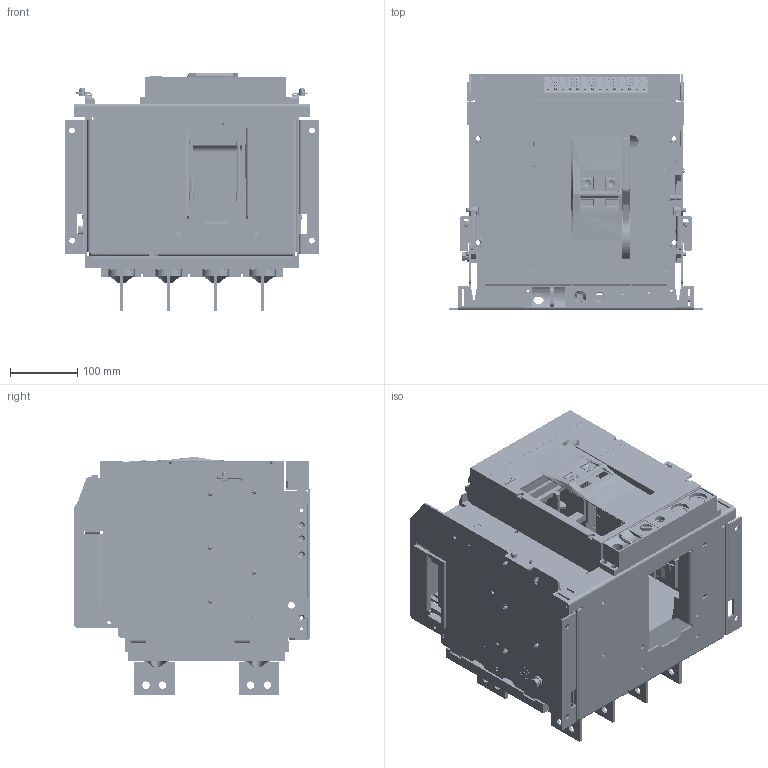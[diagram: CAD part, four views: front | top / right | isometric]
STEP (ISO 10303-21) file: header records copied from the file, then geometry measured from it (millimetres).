
FILE_DESCRIPTION((''),'2;1');
FILE_NAME('NA8G-1600-630-DO-4P-V_ASM','2019-06-03T08:47:31',('lcc'),(''),'CREO PARAMETRIC BY PTC INC, 2018020','CREO PARAMETRIC BY PTC INC, 2018020','');
FILE_SCHEMA(('CONFIG_CONTROL_DESIGN','SHAPE_APPEARANCE_LAYERS_GROUPS'));
Products named in the file (51): 8-024-498; 8-300-164; 8-141-125; 8ZTD-860-349-2; 8-441-081; 5ZTD-024-170_ASM; 8-050-244; 8-960-058; 8-960-056; 8-960-057; 8-960-060; 8-960-059; 8-127-020; 8-125-057; 8-123-120; 8-261-001; 8-125-001; 8-210-176; 5-124-010_ASM; 8-233-301; GBT97_1-4; GBT93-4; GBT818-M4X10; GBT845-ST4_2X9_5C; GBT6170-M8; 5-050-095_ASM; 8-050-243; 8-261-002; 8-125-002; 5-124-011_ASM; GBT97_1-8; GBT93-8; GBT5783-M8X16; 5-050-096_ASM; 8-300-163; 8-015-020; 8ZTD-043-780; 8ZTD-043-781; 8-300-162-2; 8-005-238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
Assembly tree (104 placements, depth 4):
  NA8G-1600-630-DO-4P-V_ASM
    5ZTD-024-170_ASM
      8-024-498
      8-300-164
      8-141-125
      8ZTD-860-349-2
      8-441-081
    5-050-095_ASM
      8-050-244
      8-960-058
      8-960-056
      8-960-057
      8-960-060
      8-960-059
      8-127-020
      8-125-057
      8-123-120
      5-124-010_ASM
        8-261-001
        8-125-001
        8-210-176
      8-233-301
      GBT97_1-4  x5
      GBT93-4  x5
      GBT818-M4X10  x5
      GBT845-ST4_2X9_5C
      GBT6170-M8  x2
    5-050-096_ASM
      8-050-243
      8-125-057
      8-123-120
      5-124-011_ASM
        8-261-002
        8-125-002
        8-210-176
      GBT6170-M8  x2
      GBT97_1-4  x5
      GBT93-4  x5
      GBT818-M4X10  x5
      GBT97_1-8  x2
      GBT93-8
      GBT5783-M8X16
    8-300-163
    8-015-020
    8ZTD-043-780
    8ZTD-043-781
    8-300-162-2
    8-005-238
    8-253-348
    8-253-349
    8-253-309
    5-235-147
    1600-DUANZI-CTS_ASM
      8ZTD-064-138
      8ZTD-024-689  x14
      8ZTD-860-511
    1600-DIJIA-4P
    8ZTD-580-189  x8
Bounding box: 378 x 351 x 355 mm (x, y, z)
Volume: 8222290 mm3; surface area: 2104692.8 mm2
Topology: 98 solids, 158 shells, 7752 faces, 21186 edges, 13925 vertices
Faces by surface type: plane 5765, cylinder 1728, cone 134, bspline 50, torus 42, sphere 32, extrusion 1
Entity records: 202593 total; most frequent: CARTESIAN_POINT 29847, ORIENTED_EDGE 27294, DIRECTION 26574, EDGE_CURVE 13658, PRESENTATION_STYLE_ASSIGNMENT 12811, STYLED_ITEM 12774, CURVE_STYLE 12111, VECTOR 10766
